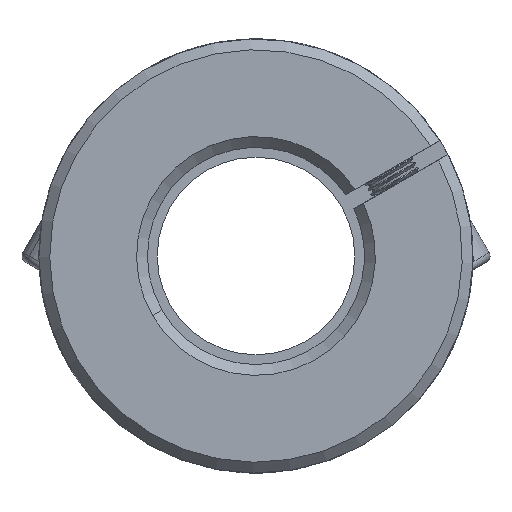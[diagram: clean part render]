
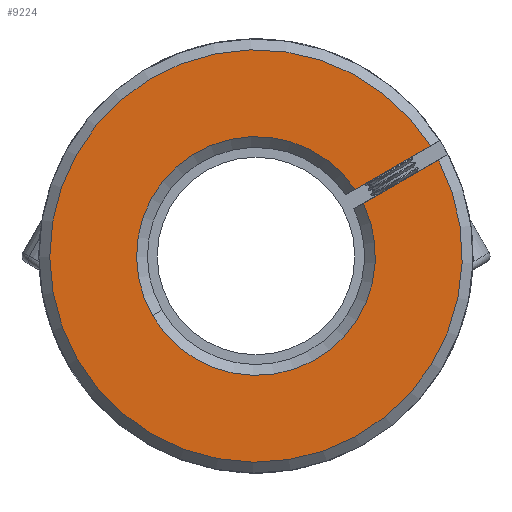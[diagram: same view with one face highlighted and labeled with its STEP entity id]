
A CAD part, front view. The second image highlights one B-rep face of the part: STEP entity #9224.
In plain terms, the highlighted planar face has unit normal (0, -1, 0).
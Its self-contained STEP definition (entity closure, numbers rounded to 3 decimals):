
#456 = VERTEX_POINT ( 'NONE', #10631 ) ;
#626 = DIRECTION ( 'NONE',  ( 0., 1., 0. ) ) ;
#701 = DIRECTION ( 'NONE',  ( -0.866, 0., -0.5 ) ) ;
#704 = ORIENTED_EDGE ( 'NONE', *, *, #13367, .T. ) ;
#1008 = VERTEX_POINT ( 'NONE', #13663 ) ;
#1412 = DIRECTION ( 'NONE',  ( 0.5, 0., -0.866 ) ) ;
#1495 = VERTEX_POINT ( 'NONE', #8457 ) ;
#2218 = CARTESIAN_POINT ( 'NONE',  ( -1.447, -31.239, 40. ) ) ;
#2281 = EDGE_CURVE ( 'NONE', #1008, #10789, #8506, .T. ) ;
#2311 = VECTOR ( 'NONE', #6532, 1000. ) ;
#2519 = CARTESIAN_POINT ( 'NONE',  ( 52.98, -31.239, 45.743 ) ) ;
#2695 = CARTESIAN_POINT ( 'NONE',  ( 15.367, -31.239, 48.848 ) ) ;
#2744 = DIRECTION ( 'NONE',  ( 0., 1., 0. ) ) ;
#2951 = ORIENTED_EDGE ( 'NONE', *, *, #2281, .T. ) ;
#3073 = ORIENTED_EDGE ( 'NONE', *, *, #9750, .T. ) ;
#3149 = LINE ( 'NONE', #8523, #2311 ) ;
#3164 = DIRECTION ( 'NONE',  ( 0., -1., 0. ) ) ;
#3880 = CARTESIAN_POINT ( 'NONE',  ( -1.447, -31.239, 40. ) ) ;
#4106 = EDGE_CURVE ( 'NONE', #1008, #456, #4932, .T. ) ;
#4281 = FACE_OUTER_BOUND ( 'NONE', #6549, .T. ) ;
#4337 = DIRECTION ( 'NONE',  ( 0.5, 0., -0.866 ) ) ;
#4887 = DIRECTION ( 'NONE',  ( 0.5, 0., -0.866 ) ) ;
#4932 = LINE ( 'NONE', #6035, #12161 ) ;
#5218 = CARTESIAN_POINT ( 'NONE',  ( -10.971, -31.239, 34.497 ) ) ;
#6035 = CARTESIAN_POINT ( 'NONE',  ( 6.812, -31.239, 45.638 ) ) ;
#6532 = DIRECTION ( 'NONE',  ( 0.866, 0., 0.5 ) ) ;
#6549 = EDGE_LOOP ( 'NONE', ( #12260, #704, #3073, #9183, #2951 ) ) ;
#6696 = DIRECTION ( 'NONE',  ( 0., 1., 0. ) ) ;
#7603 = EDGE_CURVE ( 'NONE', #1495, #10789, #3149, .T. ) ;
#7878 = AXIS2_PLACEMENT_3D ( 'NONE', #3880, #2744, #4887 ) ;
#8041 = DIRECTION ( 'NONE',  ( 0.5, 0., -0.866 ) ) ;
#8150 = AXIS2_PLACEMENT_3D ( 'NONE', #2218, #3164, #4337 ) ;
#8457 = CARTESIAN_POINT ( 'NONE',  ( 8.431, -31.239, 44.841 ) ) ;
#8506 = CIRCLE ( 'NONE', #8150, 19. ) ;
#8523 = CARTESIAN_POINT ( 'NONE',  ( 7.562, -31.239, 44.339 ) ) ;
#8962 = CIRCLE ( 'NONE', #12557, 11. ) ;
#9142 = CIRCLE ( 'NONE', #7878, 11. ) ;
#9183 = ORIENTED_EDGE ( 'NONE', *, *, #4106, .F. ) ;
#9224 = ADVANCED_FACE ( 'NONE', ( #4281 ), #12232, .F. ) ;
#9281 = CARTESIAN_POINT ( 'NONE',  ( -1.447, -31.239, 40. ) ) ;
#9750 = EDGE_CURVE ( 'NONE', #13413, #456, #9142, .T. ) ;
#10631 = CARTESIAN_POINT ( 'NONE',  ( 7.68, -31.239, 46.14 ) ) ;
#10789 = VERTEX_POINT ( 'NONE', #2695 ) ;
#12161 = VECTOR ( 'NONE', #701, 1000. ) ;
#12232 = PLANE ( 'NONE',  #13256 ) ;
#12260 = ORIENTED_EDGE ( 'NONE', *, *, #7603, .F. ) ;
#12557 = AXIS2_PLACEMENT_3D ( 'NONE', #9281, #626, #8041 ) ;
#13256 = AXIS2_PLACEMENT_3D ( 'NONE', #2519, #6696, #1412 ) ;
#13367 = EDGE_CURVE ( 'NONE', #1495, #13413, #8962, .T. ) ;
#13413 = VERTEX_POINT ( 'NONE', #5218 ) ;
#13663 = CARTESIAN_POINT ( 'NONE',  ( 14.616, -31.239, 50.147 ) ) ;
